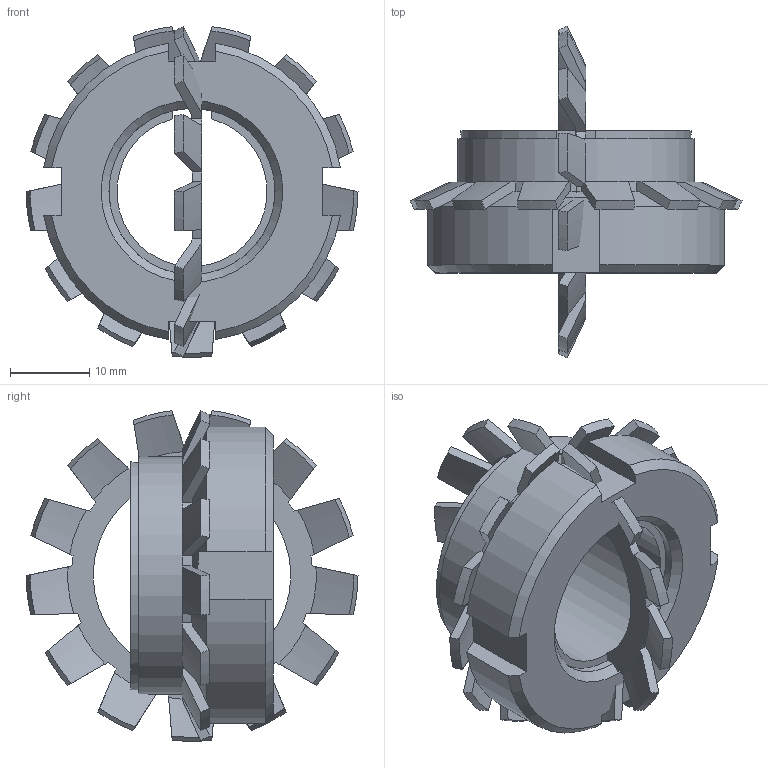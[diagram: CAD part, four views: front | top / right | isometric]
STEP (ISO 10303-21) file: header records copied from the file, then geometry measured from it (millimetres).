
FILE_DESCRIPTION( ( 'Unknown' ), '1' );
FILE_NAME( 'C:/Dokumente und Einstellungen/Sven/Desktop/homepage/cad - homepage/KBS51/KBS 51 - 19 x 30.stp', 'Unknown', ( 'Unknown' ), ( 'Unknown' ), 'XStep 1.0', 'Unknown', ' ' );
FILE_SCHEMA( ( 'automotive_design' ) );
Length unit declared in the file: millimetre
Products named in the file (3): Assem1; KBS 51 - 19 x 30; 08570053_locking_plate_din_5406_mb_5_2_14a
Bounding box: 42 x 42 x 41.83 mm (x, y, z)
Volume: 22624.6 mm3; surface area: 12854.6 mm2
Topology: 4 solids, 4 shells, 240 faces, 688 edges, 456 vertices
Faces by surface type: plane 104, cone 94, cylinder 42
Full cylindrical faces by diameter (mm): 21 x2, 30 x2
Entity records: 4268 total; most frequent: CARTESIAN_POINT 879, ORIENTED_EDGE 676, DIRECTION 640, EDGE_CURVE 338, AXIS2_PLACEMENT_3D 253, VERTEX_POINT 226, LINE 134, VECTOR 134
